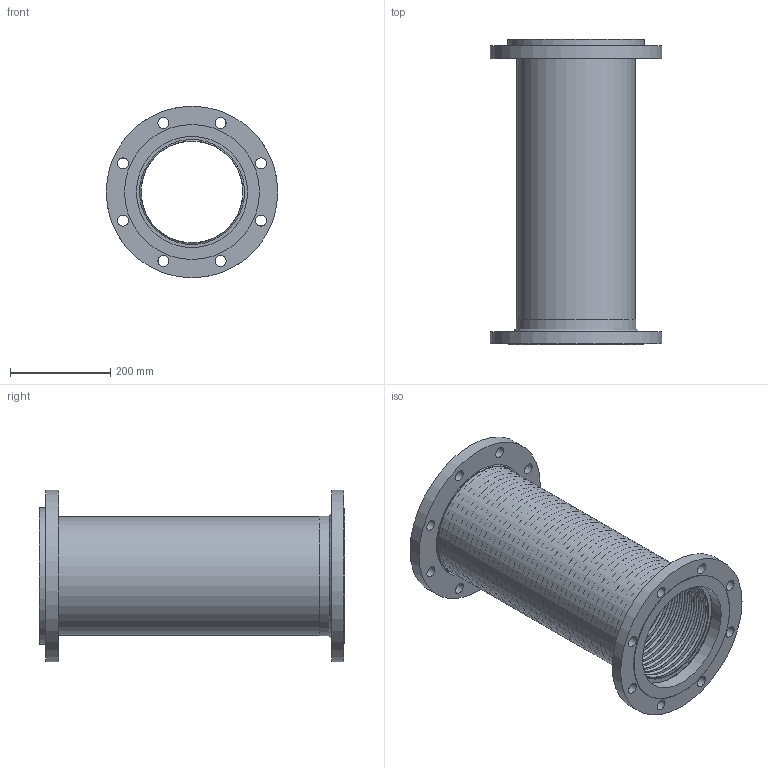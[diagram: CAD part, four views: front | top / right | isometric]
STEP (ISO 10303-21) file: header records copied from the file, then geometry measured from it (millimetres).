
FILE_DESCRIPTION((''),'2;1');
FILE_NAME('C:\2012_Work\Designs\FFLSS\8in_FFLSS_A-30363-3\FFLSS-8x24in.stp','2013-08-26T13:24:02',('KShiels'),(''),'Autodesk Inventor 2012','Autodesk Inventor 2012','');
FILE_SCHEMA(('AUTOMOTIVE_DESIGN { 1 0 10303 214 1 1 1 1 }'));
Length unit declared in the file: inch
Products named in the file (8): FFLSS-8x24in; FFLSS-8x24in_Welds; A-30641-2_8in_FFLSS-BRAID; A-30641-2_8in_FFLSS-BELLOWS; A-30641-2_8in_FFLSS-BRAID-COLLAR; A-30354-2_8in-FIXED-FLANGE; A-30355-1_8in-FLOATING-FLANGE; A-30356-2_8in-WASHER
Assembly tree (8 placements, depth 2):
  FFLSS-8x24in
    FFLSS-8x24in_Welds
    A-30641-2_8in_FFLSS-BRAID
    A-30641-2_8in_FFLSS-BELLOWS
    A-30641-2_8in_FFLSS-BRAID-COLLAR  x2
    A-30354-2_8in-FIXED-FLANGE
    A-30355-1_8in-FLOATING-FLANGE
    A-30356-2_8in-WASHER
Bounding box: 342.9 x 609.6 x 342.9 mm (x, y, z)
Volume: 3404727.7 mm3; surface area: 3583394.8 mm2
Topology: 9 solids, 9 shells, 397 faces, 645 edges, 437 vertices
Faces by surface type: plane 189, torus 174, cylinder 31, bspline 2, cone 1
Full cylindrical faces by diameter (mm): 22.225 x16, 222.25 x2, 234.95 x1, 235.966 x3, 238.347 x4, 244.475 x1, 269.875 x1, 273.05 x1, 342.9 x2
Entity records: 9022 total; most frequent: CARTESIAN_POINT 1853, DIRECTION 1624, ORIENTED_EDGE 830, EDGE_LOOP 816, AXIS2_PLACEMENT_3D 812, FACE_BOUND 423, EDGE_CURVE 415, VERTEX_POINT 413
